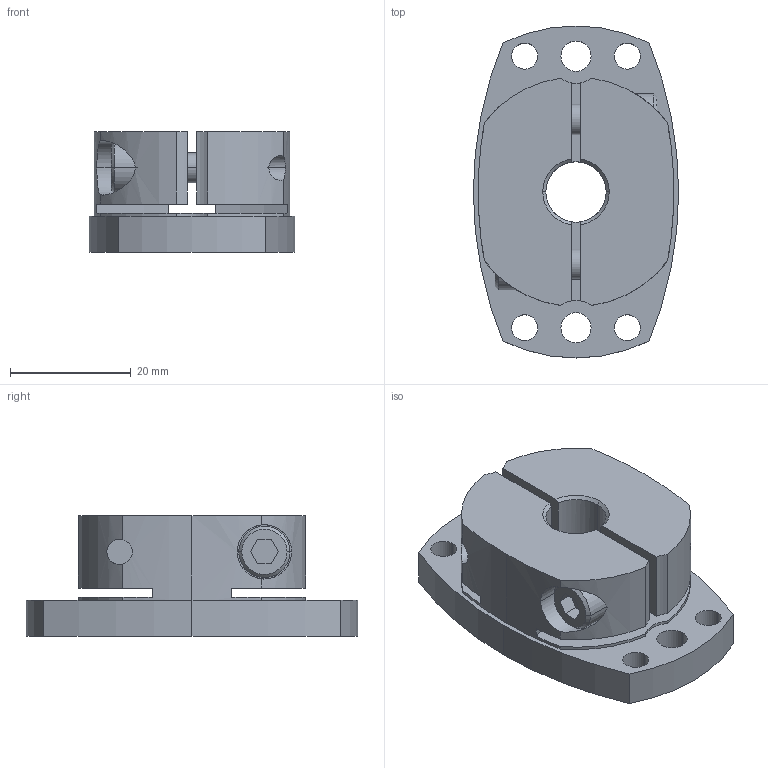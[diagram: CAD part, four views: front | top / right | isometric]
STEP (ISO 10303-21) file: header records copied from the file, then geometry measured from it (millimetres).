
FILE_DESCRIPTION((''),'2;1');
FILE_NAME('SHDB-55B-10.stp','2026-01-28T07:40:44',(''),(''),'AutoCAD STEP 2000i','AutoCAD 2000i',', , ');
FILE_SCHEMA(('CONFIG_CONTROL_DESIGN'));
Length unit declared in the file: millimetre
Products named in the file (2): SHDB-55B-10; 忣兜1
Assembly tree (1 placements, depth 2):
  SHDB-55B-10
    忣兜1
Bounding box: 34 x 55 x 20 mm (x, y, z)
Volume: 20141.5 mm3; surface area: 9250.8 mm2
Topology: 1 solids, 1 shells, 102 faces, 280 edges, 184 vertices
Faces by surface type: cylinder 58, plane 34, cone 10
Entity records: 3683 total; most frequent: CARTESIAN_POINT 856, DIRECTION 602, ORIENTED_EDGE 560, EDGE_CURVE 280, AXIS2_PLACEMENT_3D 238, VERTEX_POINT 184, CIRCLE 134, VECTOR 126
